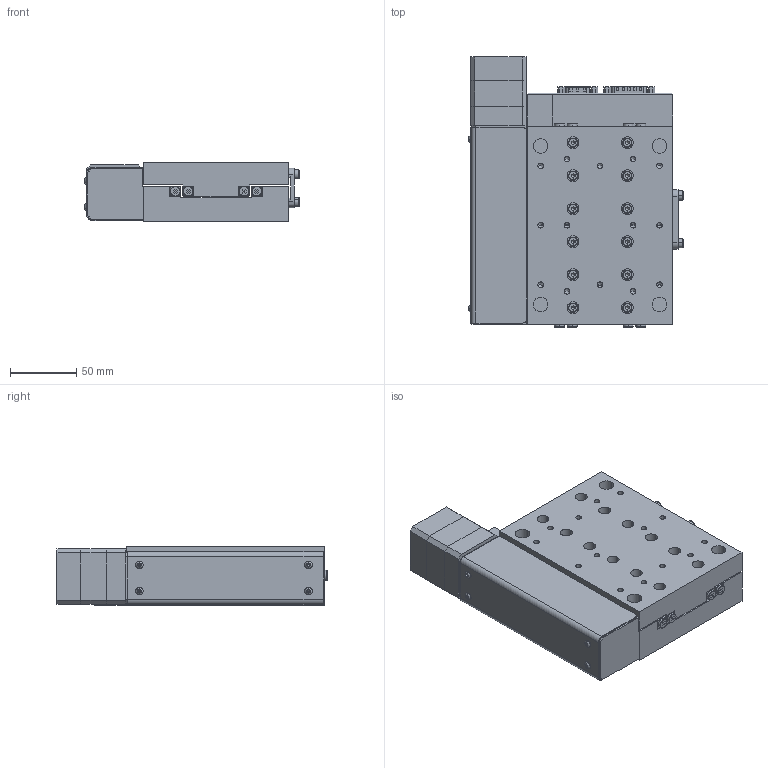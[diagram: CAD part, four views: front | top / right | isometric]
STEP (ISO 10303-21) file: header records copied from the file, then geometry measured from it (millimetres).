
FILE_DESCRIPTION (( 'STEP AP214' ), '1' );
FILE_NAME ('LNS-050-BS-A-H-S-EXPORT.STEP', '2025-06-27T18:07:41', ( 'lab' ), ( '' ), 'SwSTEP 2.0', 'SolidWorks 2018', '' );
FILE_SCHEMA (( 'AUTOMOTIVE_DESIGN' ));
Length unit declared in the file: millimetre
Products named in the file (10): 1000001_file_export0; 1000010_file_export16; 1000009; 1000012_file_export17; 1000013_file_export22; 1000015_file_export21; 1000006; LNS-050-BS-A-H-S-EXPORT; 1000014_file_export23; 1000011_file_export14
Assembly tree (15 placements, depth 2):
  LNS-050-BS-A-H-S-EXPORT
    1000001_file_export0
    1000006
    1000009
    1000010_file_export16  x4
    1000011_file_export14
    1000012_file_export17
    1000013_file_export22  x4
    1000014_file_export23
    1000015_file_export21
Bounding box: 162.5 x 204.4 x 45 mm (x, y, z)
Volume: 1101117.9 mm3; surface area: 223447 mm2
Topology: 71 solids, 71 shells, 1730 faces, 3922 edges, 2373 vertices
Faces by surface type: plane 1066, cylinder 326, bspline 170, cone 160, torus 8
Entity records: 54766 total; most frequent: CARTESIAN_POINT 13662, DIRECTION 7130, ORIENTED_EDGE 7084, EDGE_CURVE 3542, AXIS2_PLACEMENT_3D 2404, LINE 2322, VECTOR 2322, VERTEX_POINT 2196
